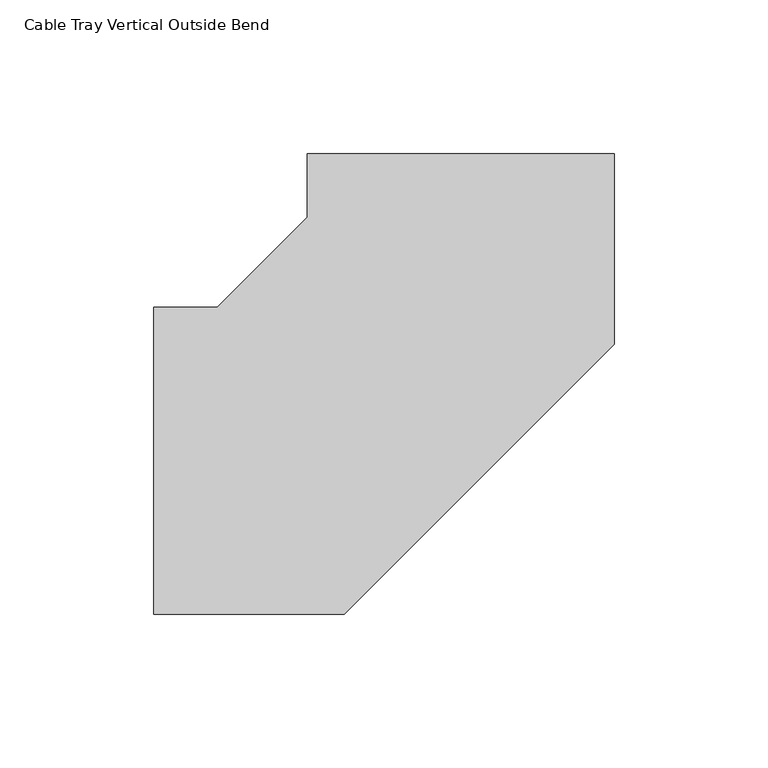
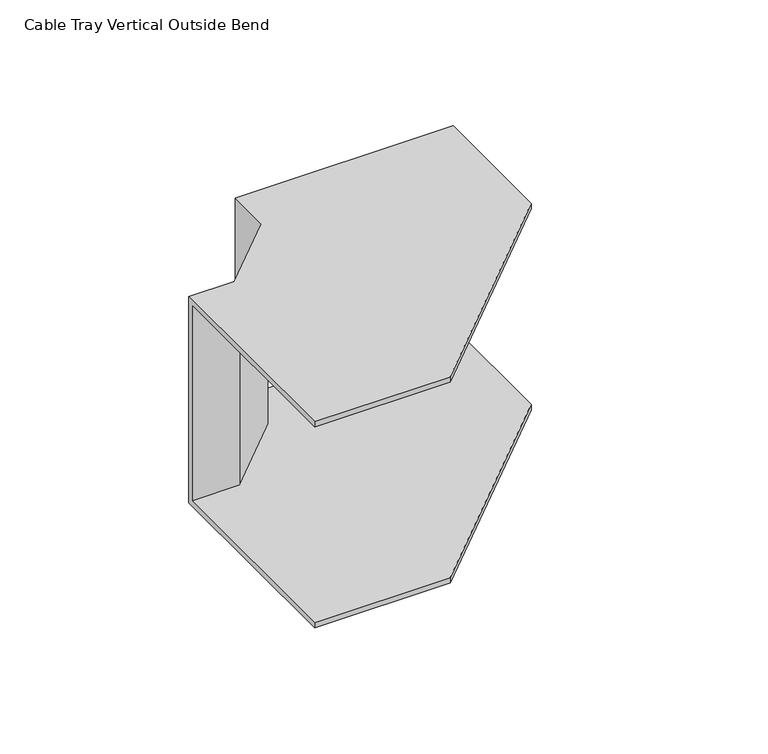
"""IFC4 building model written with IfcOpenShell, lengths in millimetres: cable carrier fitting geometry, Cable Tray Vertical Outside Bend : ELEC_ELV_TKG_N2402."""

from ifc_helpers import new_model, si_unit, origin, place, context, project, spatial, faceted_brep, source, transform, mapped, element, save


def cable_tray_vertical_outside_bend_da921238(model_context):
    return source(origin(), model_context, "Body", "Brep", [
        faceted_brep([(-100.0044222, -50.0, 50.0), (-100.0044222, 50.0, 50.0), (-100.0044222, 50.0, -50.0), (-100.0044222, -50.0, -50.0), (-100.0044222, -50.0, -47.46), (-100.0044222, 47.46, -47.46), (-100.0044222, 47.46, 47.46), (-100.0044222, -50.0, 47.46), (49.9955776, 100.0066332, 50.0), (49.9955776, 100.0066332, 47.46), (-47.4644223, 100.0023234, 47.46), (-47.4644223, 100.0023234, -47.46), (49.9955776, 100.0066332, -47.46), (49.9955776, 100.0066332, -50.0), (-50.0044223, 100.0022111, -50.0), (-50.0044223, 100.0022111, 50.0), (-37.870445, -50.0, 50.0), (49.9983253, 37.8726561, 50.0), (-50.0035064, 79.2908854, 50.0), (-79.2930965, 50.0, 50.0), (-79.2930965, 50.0, -50.0), (-50.0035064, 79.2908854, -50.0), (49.9983253, 37.8726561, -50.0), (-37.870445, -50.0, -50.0), (-37.870445, -50.0, -47.46), (49.9983253, 37.8726561, -47.46), (-47.4634599, 78.2388623, -47.46), (-78.2409611, 47.46, -47.46), (-78.2409611, 47.46, 47.46), (-47.4634599, 78.2388623, 47.46), (49.9983253, 37.8726561, 47.46), (-37.870445, -50.0, 47.46)], [[[0, 1, 2, 3, 4, 5, 6, 7]], [[8, 9, 10, 11, 12, 13, 14, 15]], [[1, 0, 16, 17, 8, 15, 18, 19]], [[2, 1, 19, 20]], [[3, 2, 20, 21, 14, 13, 22, 23]], [[4, 3, 23, 24]], [[5, 4, 24, 25, 12, 11, 26, 27]], [[6, 5, 27, 28]], [[7, 6, 28, 29, 10, 9, 30, 31]], [[0, 7, 31, 16]], [[20, 19, 18, 21]], [[24, 23, 22, 25]], [[28, 27, 26, 29]], [[16, 31, 30, 17]], [[21, 18, 15, 14]], [[25, 22, 13, 12]], [[29, 26, 11, 10]], [[17, 30, 9, 8]]]),
    ])


if __name__ == "__main__":
    model = new_model("IFC4")
    model_context = context("Model", 3, world=origin())
    ifc_project = project(units=[si_unit("LENGTHUNIT", "METRE", prefix="MILLI")], contexts=[model_context])
    site = spatial("IfcSite", under=ifc_project)
    building = spatial("IfcBuilding", under=site)
    placement = place(None, origin())
    cable_tray_vertical_outside_bend_shape = cable_tray_vertical_outside_bend_da921238(model_context)
    element("IfcCableCarrierFitting", 1, ObjectType="Cable Tray Vertical Outside Bend : ELEC_ELV_TKG_N2402", at=placement, inside=building, context=model_context, shape_type="MappedRepresentation", body=[
        mapped(cable_tray_vertical_outside_bend_shape, transform((0.0, 0.0, 0.0), x_axis=(1.0, 0.0, 0.0), y_axis=(0.0, 1.0, 0.0), z_axis=(0.0, 0.0, 1.0))),
    ])
    save(model, "model.ifc")
